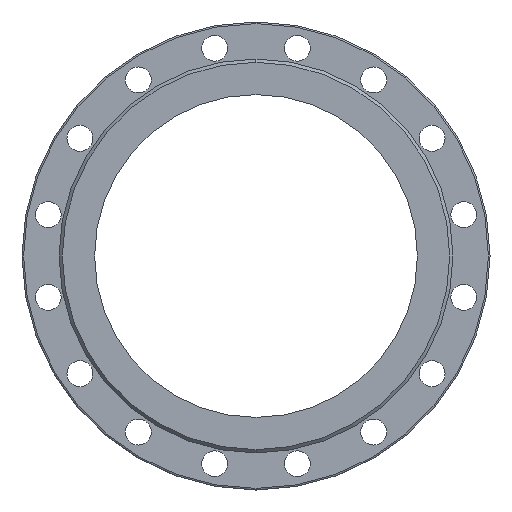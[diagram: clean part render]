
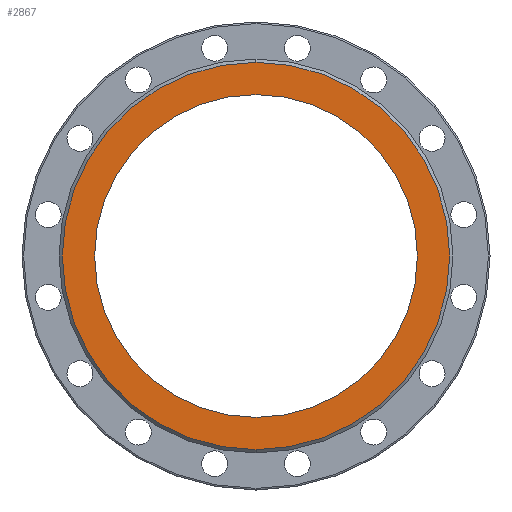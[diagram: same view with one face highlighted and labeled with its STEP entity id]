
A CAD part, left-side view. The second image highlights one B-rep face of the part: STEP entity #2867.
In plain terms, the highlighted planar face has unit normal (-1, 0, 0).
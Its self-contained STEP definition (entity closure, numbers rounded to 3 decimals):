
#11 = ORIENTED_EDGE ( 'NONE', *, *, #2279, .F. ) ;
#13 = CARTESIAN_POINT ( 'NONE',  ( -250., 0., -200. ) ) ;
#74 = EDGE_CURVE ( 'Defeatured_0_3+Defeatured_0_4+Defeatured_0_4+Defeatured_0_4', #885, #323, #3862, .T. ) ;
#120 = CARTESIAN_POINT ( 'NONE',  ( -250., 0., 0. ) ) ;
#323 = VERTEX_POINT ( 'NONE', #4034 ) ;
#579 = ORIENTED_EDGE ( 'NONE', *, *, #2125, .F. ) ;
#677 = CARTESIAN_POINT ( 'NONE',  ( -250., 200., 0. ) ) ;
#766 = VERTEX_POINT ( 'NONE', #13 ) ;
#885 = VERTEX_POINT ( 'NONE', #3044 ) ;
#893 = CARTESIAN_POINT ( 'NONE',  ( -250., 0., 0. ) ) ;
#1044 = DIRECTION ( 'NONE',  ( 0., 0., 1. ) ) ;
#1095 = FACE_OUTER_BOUND ( 'NONE', #1891, .T. ) ;
#1203 = DIRECTION ( 'NONE',  ( -1., 0., 0. ) ) ;
#1464 = AXIS2_PLACEMENT_3D ( 'NONE', #677, #2378, #4077 ) ;
#1891 = EDGE_LOOP ( 'NONE', ( #2513, #4612 ) ) ;
#1995 = AXIS2_PLACEMENT_3D ( 'NONE', #120, #3579, #1044 ) ;
#2087 = CIRCLE ( 'NONE', #3505, 200. ) ;
#2125 = EDGE_CURVE ( 'Defeatured_0_2+Defeatured_0_3+Defeatured_0_3+Defeatured_0_3', #5389, #766, #3593, .T. ) ;
#2160 = EDGE_LOOP ( 'NONE', ( #579, #11 ) ) ;
#2279 = EDGE_CURVE ( 'Defeatured_0_2+Defeatured_0_3+Defeatured_0_3+Defeatured_0_3', #766, #5389, #2087, .T. ) ;
#2368 = CARTESIAN_POINT ( 'NONE',  ( -250., 0., 0. ) ) ;
#2378 = DIRECTION ( 'NONE',  ( 1., 0., 0. ) ) ;
#2440 = DIRECTION ( 'NONE',  ( 0., 0., 1. ) ) ;
#2513 = ORIENTED_EDGE ( 'NONE', *, *, #74, .T. ) ;
#2592 = DIRECTION ( 'NONE',  ( -1., 0., 0. ) ) ;
#2867 = ADVANCED_FACE ( 'Defeatured_0_3', ( #5309, #1095 ), #4496, .F. ) ;
#3010 = AXIS2_PLACEMENT_3D ( 'NONE', #2368, #1203, #4067 ) ;
#3044 = CARTESIAN_POINT ( 'NONE',  ( -250., 0., -240. ) ) ;
#3505 = AXIS2_PLACEMENT_3D ( 'NONE', #3698, #3637, #2440 ) ;
#3579 = DIRECTION ( 'NONE',  ( -1., 0., 0. ) ) ;
#3593 = CIRCLE ( 'NONE', #1995, 200. ) ;
#3617 = EDGE_CURVE ( 'Defeatured_0_3+Defeatured_0_4+Defeatured_0_4+Defeatured_0_4', #323, #885, #4785, .T. ) ;
#3637 = DIRECTION ( 'NONE',  ( -1., 0., 0. ) ) ;
#3698 = CARTESIAN_POINT ( 'NONE',  ( -250., 0., 0. ) ) ;
#3862 = CIRCLE ( 'NONE', #4130, 240. ) ;
#3920 = CARTESIAN_POINT ( 'NONE',  ( -250., 0., 200. ) ) ;
#4034 = CARTESIAN_POINT ( 'NONE',  ( -250., 0., 240. ) ) ;
#4067 = DIRECTION ( 'NONE',  ( 0., 0., 1. ) ) ;
#4077 = DIRECTION ( 'NONE',  ( 0., 0., -1. ) ) ;
#4130 = AXIS2_PLACEMENT_3D ( 'NONE', #893, #2592, #4290 ) ;
#4290 = DIRECTION ( 'NONE',  ( 0., 0., 1. ) ) ;
#4496 = PLANE ( 'NONE',  #1464 ) ;
#4612 = ORIENTED_EDGE ( 'NONE', *, *, #3617, .T. ) ;
#4785 = CIRCLE ( 'NONE', #3010, 240. ) ;
#5309 = FACE_BOUND ( 'NONE', #2160, .T. ) ;
#5389 = VERTEX_POINT ( 'NONE', #3920 ) ;
